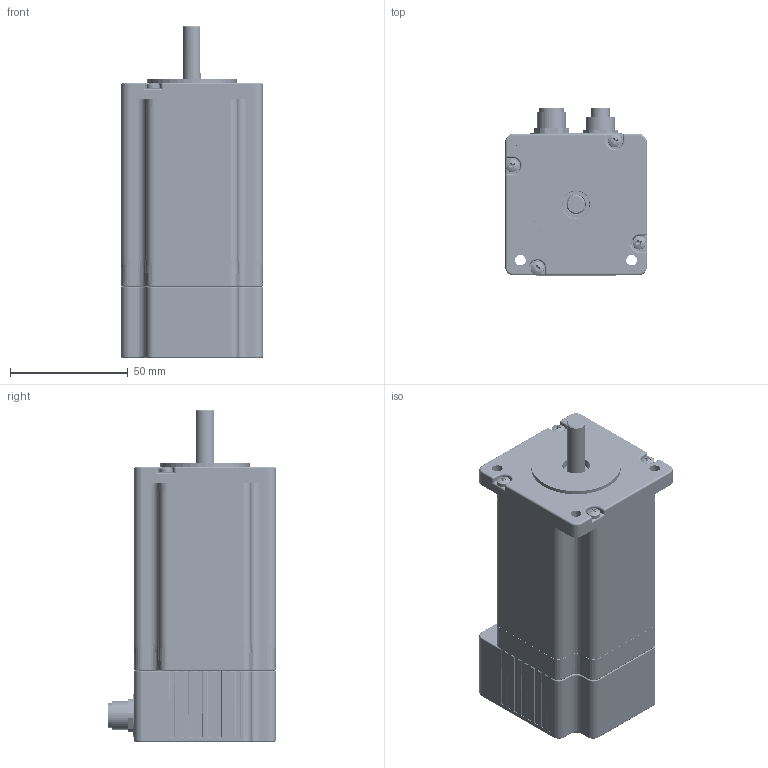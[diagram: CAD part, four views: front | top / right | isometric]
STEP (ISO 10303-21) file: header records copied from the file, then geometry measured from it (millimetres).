
FILE_DESCRIPTION (( 'STEP AP214' ), '1' );
FILE_NAME ('M60SH86-TO0512P24C.STEP', '2025-06-13T14:31:50', ( '' ), ( '' ), 'SwSTEP 2.0', 'SolidWorks 2019', '' );
FILE_SCHEMA (( 'AUTOMOTIVE_DESIGN' ));
Length unit declared in the file: millimetre
Products named in the file (1): M60SH86-TO0512P24C
Bounding box: 60.19 x 71.2 x 140.8 mm (x, y, z)
Volume: 211884.9 mm3; surface area: 104397.8 mm2
Topology: 20 solids, 20 shells, 4878 faces, 12475 edges, 7827 vertices
Faces by surface type: plane 1664, cylinder 1451, torus 606, bspline 570, cone 518, sphere 69
Entity records: 236055 total; most frequent: CARTESIAN_POINT 66006, ORIENTED_EDGE 24794, DIRECTION 23860, EDGE_CURVE 12397, AXIS2_PLACEMENT_3D 9031, VERTEX_POINT 7827, LINE 5798, VECTOR 5798
